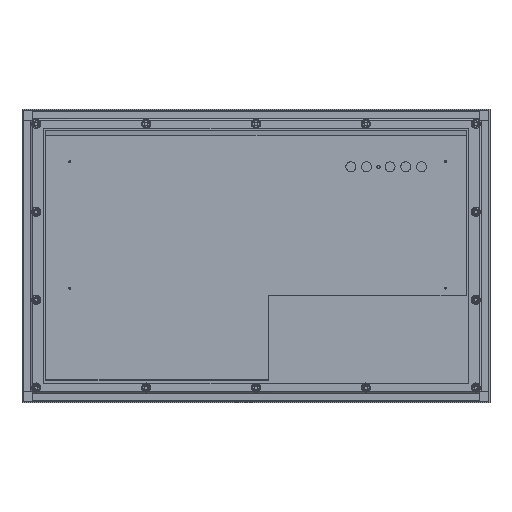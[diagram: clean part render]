
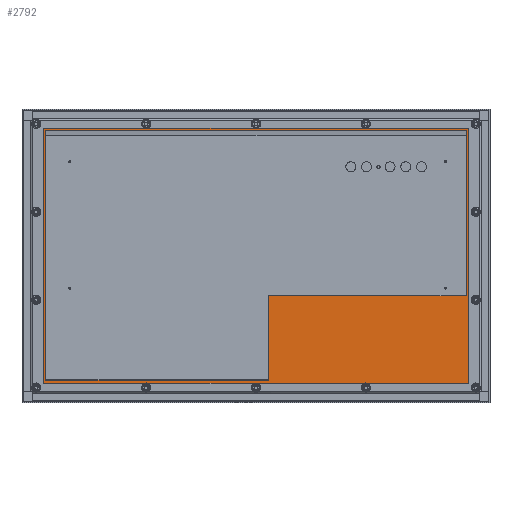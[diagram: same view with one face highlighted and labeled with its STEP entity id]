
A CAD part, top view. The second image highlights one B-rep face of the part: STEP entity #2792.
In plain terms, the highlighted planar face has unit normal (0, 0, 1).
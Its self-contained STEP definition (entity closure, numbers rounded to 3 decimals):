
#277 = VERTEX_POINT ( 'NONE', #997 ) ;
#293 = VERTEX_POINT ( 'NONE', #5352 ) ;
#620 = ORIENTED_EDGE ( 'NONE', *, *, #7920, .T. ) ;
#629 = DIRECTION ( 'NONE',  ( -1., 0., 0. ) ) ;
#889 = DIRECTION ( 'NONE',  ( -1., 0., 0. ) ) ;
#997 = CARTESIAN_POINT ( 'NONE',  ( 277.967, -159.236, 18.974 ) ) ;
#1259 = VERTEX_POINT ( 'NONE', #4042 ) ;
#1355 = CARTESIAN_POINT ( 'NONE',  ( -271.555, -165.648, 18.974 ) ) ;
#1444 = PLANE ( 'NONE',  #6533 ) ;
#1445 = VECTOR ( 'NONE', #2499, 1000. ) ;
#1912 = LINE ( 'NONE', #3637, #5767 ) ;
#2150 = ORIENTED_EDGE ( 'NONE', *, *, #3515, .T. ) ;
#2499 = DIRECTION ( 'NONE',  ( 0.707, 0.707, 0. ) ) ;
#2540 = CARTESIAN_POINT ( 'NONE',  ( -271.555, 165.623, 18.974 ) ) ;
#2640 = CARTESIAN_POINT ( 'NONE',  ( -271.555, -165.648, 18.974 ) ) ;
#2668 = VECTOR ( 'NONE', #8383, 1000. ) ;
#2792 = ADVANCED_FACE ( 'NONE', ( #7088 ), #1444, .F. ) ;
#2837 = CARTESIAN_POINT ( 'NONE',  ( 271.555, 165.623, 18.974 ) ) ;
#2875 = DIRECTION ( 'NONE',  ( 0., -1., 0. ) ) ;
#3002 = EDGE_CURVE ( 'NONE', #9072, #277, #4929, .T. ) ;
#3086 = VECTOR ( 'NONE', #7087, 1000. ) ;
#3152 = EDGE_CURVE ( 'NONE', #10650, #1259, #6443, .T. ) ;
#3317 = CARTESIAN_POINT ( 'NONE',  ( 277.967, -159.236, 18.974 ) ) ;
#3515 = EDGE_CURVE ( 'NONE', #1259, #9516, #9936, .T. ) ;
#3637 = CARTESIAN_POINT ( 'NONE',  ( 271.555, -165.648, 18.974 ) ) ;
#3940 = CARTESIAN_POINT ( 'NONE',  ( 0., 0., 18.974 ) ) ;
#4042 = CARTESIAN_POINT ( 'NONE',  ( -277.967, 159.211, 18.974 ) ) ;
#4267 = CARTESIAN_POINT ( 'NONE',  ( -277.967, -159.236, 18.974 ) ) ;
#4282 = VECTOR ( 'NONE', #5201, 1000. ) ;
#4346 = CARTESIAN_POINT ( 'NONE',  ( -277.967, 159.211, 18.974 ) ) ;
#4553 = CARTESIAN_POINT ( 'NONE',  ( -271.555, 165.623, 18.974 ) ) ;
#4929 = LINE ( 'NONE', #3317, #1445 ) ;
#5098 = LINE ( 'NONE', #2640, #2668 ) ;
#5201 = DIRECTION ( 'NONE',  ( -0.707, -0.707, 0. ) ) ;
#5352 = CARTESIAN_POINT ( 'NONE',  ( 271.555, 165.623, 18.974 ) ) ;
#5574 = DIRECTION ( 'NONE',  ( 0., 0., -1. ) ) ;
#5690 = CARTESIAN_POINT ( 'NONE',  ( 277.967, 159.211, 18.974 ) ) ;
#5767 = VECTOR ( 'NONE', #8531, 1000. ) ;
#5801 = VERTEX_POINT ( 'NONE', #5690 ) ;
#5890 = ORIENTED_EDGE ( 'NONE', *, *, #10042, .T. ) ;
#6120 = DIRECTION ( 'NONE',  ( -0.707, 0.707, 0. ) ) ;
#6443 = LINE ( 'NONE', #4346, #4282 ) ;
#6533 = AXIS2_PLACEMENT_3D ( 'NONE', #3940, #5574, #629 ) ;
#6728 = EDGE_LOOP ( 'NONE', ( #2150, #5890, #7162, #8095, #7413, #620, #8324, #10613 ) ) ;
#6784 = VERTEX_POINT ( 'NONE', #1355 ) ;
#7087 = DIRECTION ( 'NONE',  ( 0., 1., 0. ) ) ;
#7088 = FACE_OUTER_BOUND ( 'NONE', #6728, .T. ) ;
#7162 = ORIENTED_EDGE ( 'NONE', *, *, #9141, .T. ) ;
#7291 = VECTOR ( 'NONE', #889, 1000. ) ;
#7413 = ORIENTED_EDGE ( 'NONE', *, *, #8046, .T. ) ;
#7627 = CARTESIAN_POINT ( 'NONE',  ( 271.555, -165.648, 18.974 ) ) ;
#7776 = CARTESIAN_POINT ( 'NONE',  ( -277.967, -159.236, 18.974 ) ) ;
#7920 = EDGE_CURVE ( 'NONE', #5801, #293, #10696, .T. ) ;
#8046 = EDGE_CURVE ( 'NONE', #277, #5801, #9363, .T. ) ;
#8095 = ORIENTED_EDGE ( 'NONE', *, *, #3002, .T. ) ;
#8324 = ORIENTED_EDGE ( 'NONE', *, *, #9458, .T. ) ;
#8383 = DIRECTION ( 'NONE',  ( 0.707, -0.707, 0. ) ) ;
#8531 = DIRECTION ( 'NONE',  ( 1., 0., 0. ) ) ;
#9072 = VERTEX_POINT ( 'NONE', #7627 ) ;
#9141 = EDGE_CURVE ( 'NONE', #6784, #9072, #1912, .T. ) ;
#9363 = LINE ( 'NONE', #9584, #3086 ) ;
#9458 = EDGE_CURVE ( 'NONE', #293, #10650, #9499, .T. ) ;
#9499 = LINE ( 'NONE', #2540, #7291 ) ;
#9516 = VERTEX_POINT ( 'NONE', #4267 ) ;
#9584 = CARTESIAN_POINT ( 'NONE',  ( 277.967, 159.211, 18.974 ) ) ;
#9936 = LINE ( 'NONE', #7776, #10205 ) ;
#10042 = EDGE_CURVE ( 'NONE', #9516, #6784, #5098, .T. ) ;
#10205 = VECTOR ( 'NONE', #2875, 1000. ) ;
#10427 = VECTOR ( 'NONE', #6120, 1000. ) ;
#10613 = ORIENTED_EDGE ( 'NONE', *, *, #3152, .T. ) ;
#10650 = VERTEX_POINT ( 'NONE', #4553 ) ;
#10696 = LINE ( 'NONE', #2837, #10427 ) ;
